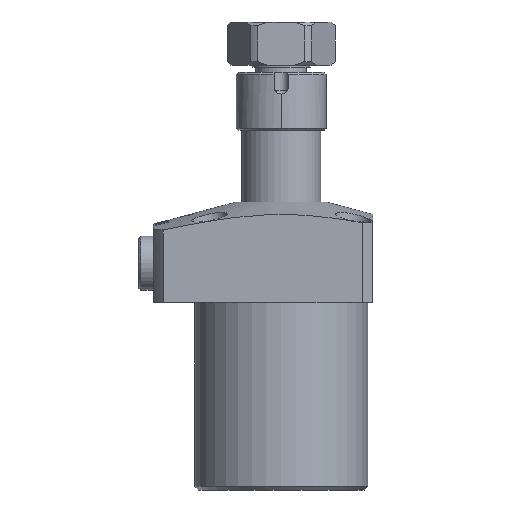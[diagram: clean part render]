
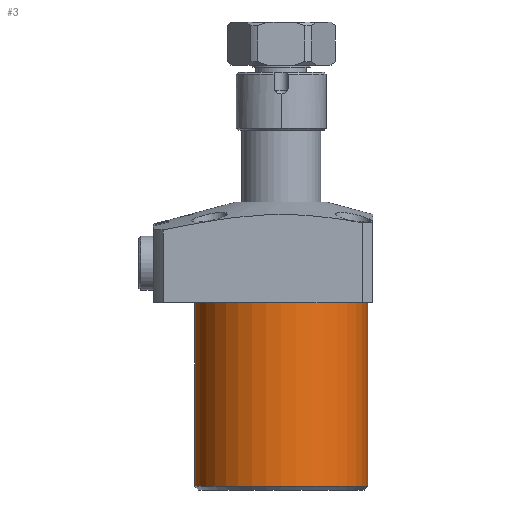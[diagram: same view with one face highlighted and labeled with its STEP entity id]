
A CAD part, front view. The second image highlights one B-rep face of the part: STEP entity #3.
In plain terms, the highlighted cylindrical face has radius 24 mm (diameter 48 mm), a partial arc.
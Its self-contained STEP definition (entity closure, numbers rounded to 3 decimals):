
#3 = ADVANCED_FACE ( 'NONE', ( #11091 ), #10681, .T. ) ;
#333 = DIRECTION ( 'NONE',  ( -1., 0., 0. ) ) ;
#1442 = ORIENTED_EDGE ( 'NONE', *, *, #4039, .T. ) ;
#1623 = EDGE_CURVE ( 'NONE', #9598, #11071, #7207, .T. ) ;
#2703 = CARTESIAN_POINT ( 'NONE',  ( 24., 0., -52. ) ) ;
#2802 = VERTEX_POINT ( 'NONE', #8252 ) ;
#3241 = CARTESIAN_POINT ( 'NONE',  ( -24., 0., -51. ) ) ;
#3267 = VERTEX_POINT ( 'NONE', #15922 ) ;
#3647 = DIRECTION ( 'NONE',  ( 0., 0., 1. ) ) ;
#4039 = EDGE_CURVE ( 'NONE', #11071, #2802, #14445, .T. ) ;
#4944 = DIRECTION ( 'NONE',  ( 1., 0., 0. ) ) ;
#5212 = CIRCLE ( 'NONE', #6670, 24. ) ;
#6112 = ORIENTED_EDGE ( 'NONE', *, *, #1623, .T. ) ;
#6223 = AXIS2_PLACEMENT_3D ( 'NONE', #15804, #8105, #333 ) ;
#6656 = DIRECTION ( 'NONE',  ( 0., 0., 1. ) ) ;
#6670 = AXIS2_PLACEMENT_3D ( 'NONE', #7016, #16034, #8336 ) ;
#7016 = CARTESIAN_POINT ( 'NONE',  ( 0., 0., 0. ) ) ;
#7207 = CIRCLE ( 'NONE', #6223, 24. ) ;
#7560 = LINE ( 'NONE', #14063, #14431 ) ;
#7570 = VECTOR ( 'NONE', #6656, 1000. ) ;
#7886 = CARTESIAN_POINT ( 'NONE',  ( 24., 0., -51. ) ) ;
#8105 = DIRECTION ( 'NONE',  ( 0., 0., 1. ) ) ;
#8252 = CARTESIAN_POINT ( 'NONE',  ( 24., 0., 0. ) ) ;
#8336 = DIRECTION ( 'NONE',  ( -1., 0., 0. ) ) ;
#9598 = VERTEX_POINT ( 'NONE', #3241 ) ;
#9747 = EDGE_CURVE ( 'NONE', #9598, #3267, #7560, .T. ) ;
#10466 = ORIENTED_EDGE ( 'NONE', *, *, #9747, .F. ) ;
#10681 = CYLINDRICAL_SURFACE ( 'NONE', #13367, 24. ) ;
#10929 = EDGE_LOOP ( 'NONE', ( #10466, #6112, #1442, #16720 ) ) ;
#11071 = VERTEX_POINT ( 'NONE', #7886 ) ;
#11091 = FACE_OUTER_BOUND ( 'NONE', #10929, .T. ) ;
#12741 = CARTESIAN_POINT ( 'NONE',  ( 0., 0., -52. ) ) ;
#13367 = AXIS2_PLACEMENT_3D ( 'NONE', #12741, #3647, #4944 ) ;
#14063 = CARTESIAN_POINT ( 'NONE',  ( -24., 0., -52. ) ) ;
#14120 = DIRECTION ( 'NONE',  ( 0., 0., 1. ) ) ;
#14431 = VECTOR ( 'NONE', #14120, 1000. ) ;
#14445 = LINE ( 'NONE', #2703, #7570 ) ;
#15804 = CARTESIAN_POINT ( 'NONE',  ( 0., 0., -51. ) ) ;
#15922 = CARTESIAN_POINT ( 'NONE',  ( -24., 0., 0. ) ) ;
#16034 = DIRECTION ( 'NONE',  ( 0., 0., -1. ) ) ;
#16474 = EDGE_CURVE ( 'NONE', #2802, #3267, #5212, .T. ) ;
#16720 = ORIENTED_EDGE ( 'NONE', *, *, #16474, .T. ) ;
